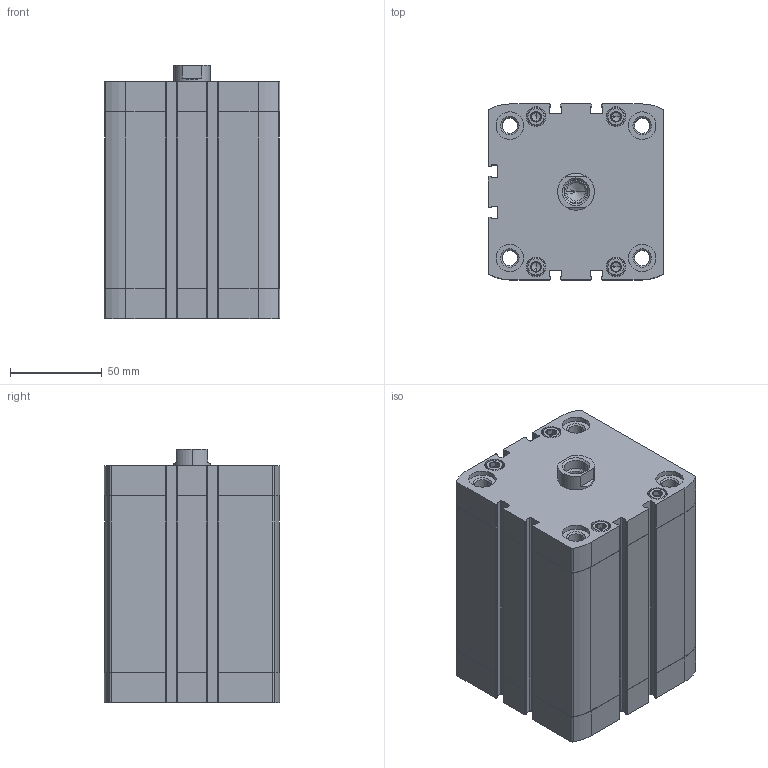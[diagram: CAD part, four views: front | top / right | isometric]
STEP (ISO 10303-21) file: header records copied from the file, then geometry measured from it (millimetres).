
FILE_DESCRIPTION (( 'STEP AP203' ), '1' );
FILE_NAME ('CCN80-75F.STEP', '2017-04-05T19:47:02', ( '' ), ( '' ), 'SwSTEP 2.0', 'SolidWorks 2016', '' );
FILE_SCHEMA (( 'CONFIG_CONTROL_DESIGN' ));
Length unit declared in the file: millimetre
Products named in the file (3): CCN80-75F; CCN-75---(Z); CCN-75_(KS)
Assembly tree (2 placements, depth 2):
  CCN80-75F
    CCN-75---(Z)
    CCN-75_(KS)
Bounding box: 95.5 x 95.5 x 137.9 mm (x, y, z)
Volume: 747052.3 mm3; surface area: 149735.3 mm2
Topology: 2 solids, 2 shells, 487 faces, 1232 edges, 779 vertices
Faces by surface type: plane 227, cylinder 186, cone 74
Entity records: 15281 total; most frequent: CARTESIAN_POINT 3035, DIRECTION 2616, ORIENTED_EDGE 2428, EDGE_CURVE 1214, AXIS2_PLACEMENT_3D 976, VERTEX_POINT 779, VECTOR 664, LINE 664
